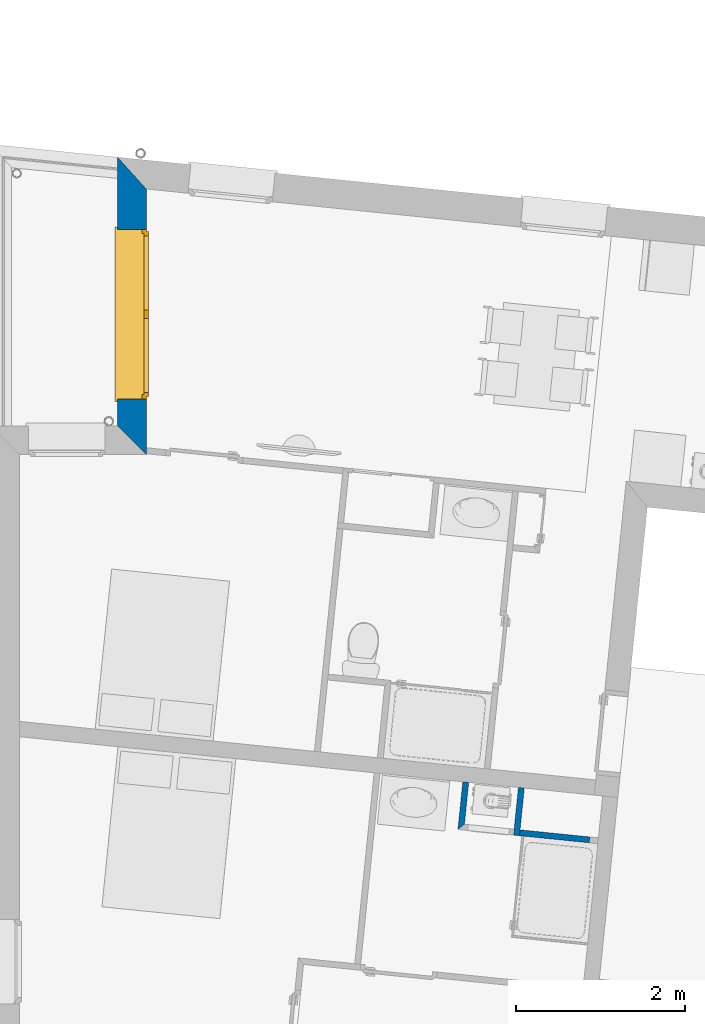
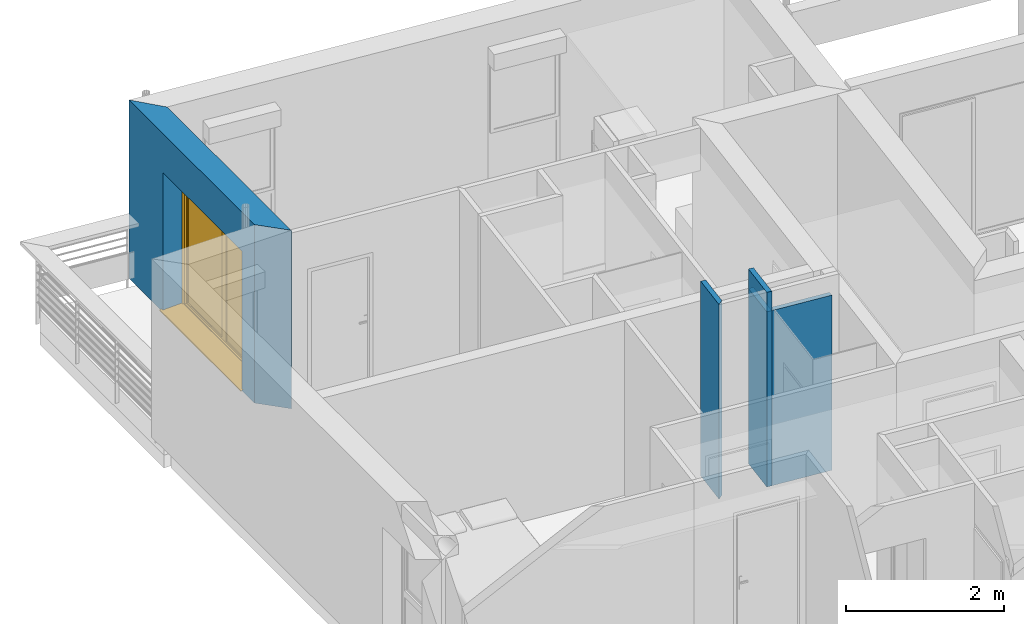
# One storey, part 69 of 171: 5 walls, 1 window, 1 opening.
"""IFC2X3 building model written with IfcOpenShell, lengths in millimetres."""

from ifc_helpers import new_model, entity, si_unit, converted_unit, derived_unit, money_unit, direction, frame, origin_with_axes, place, context, subcontext, project, spatial, polyline, outline, extrude, open_shell, faceted_brep, surface_model, source, transform, mapped, material, layer, layer_set, layer_usage, type_object, element, fill, save


model = new_model("IFC2X3")

# Units and contexts
model_context = context("Model", 3, precision=0.01, world=origin_with_axes(), true_north=direction((0.0, 1.0)))
body_context = subcontext(model_context, "Body", "Model", "MODEL_VIEW")
ifc_project = project(units=[si_unit("LENGTHUNIT", "METRE", prefix="MILLI"), si_unit("AREAUNIT", "SQUARE_METRE"), si_unit("VOLUMEUNIT", "CUBIC_METRE"), converted_unit("PLANEANGLEUNIT", "DEGREE", entity("IfcPlaneAngleMeasure", 0.0174532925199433), si_unit("PLANEANGLEUNIT", "RADIAN"), dimensions=[0, 0, 0, 0, 0, 0, 0]), money_unit("USD"), converted_unit("TIMEUNIT", "Year", entity("IfcTimeMeasure", 31557600.0), si_unit("TIMEUNIT", "SECOND"), dimensions=[0, 0, 1, 0, 0, 0, 0]), si_unit("MASSUNIT", "GRAM", prefix="KILO"), si_unit("THERMODYNAMICTEMPERATUREUNIT", "DEGREE_CELSIUS"), si_unit("LUMINOUSINTENSITYUNIT", "LUMEN"), si_unit("ENERGYUNIT", "JOULE", prefix="MEGA"), derived_unit("THERMALCONDUCTANCEUNIT", [(si_unit("POWERUNIT", "WATT"), 1), (si_unit("LENGTHUNIT", "METRE"), -1), (si_unit("THERMODYNAMICTEMPERATUREUNIT", "KELVIN"), -1)]), derived_unit("SPECIFICHEATCAPACITYUNIT", [(si_unit("ENERGYUNIT", "JOULE"), 1), (si_unit("MASSUNIT", "GRAM", prefix="KILO"), -1), (si_unit("THERMODYNAMICTEMPERATUREUNIT", "KELVIN"), -1)]), derived_unit("MASSDENSITYUNIT", [(si_unit("MASSUNIT", "GRAM", prefix="KILO"), 1), (si_unit("VOLUMEUNIT", "CUBIC_METRE"), -1)])], contexts=[model_context])

# Site, building, storey
site_placement = place(None, origin_with_axes())
site = spatial("IfcSite", under=ifc_project, at=site_placement, Name="Site", CompositionType="ELEMENT")
building_placement = place(site_placement, origin_with_axes())
building = spatial("IfcBuilding", under=site, at=building_placement, Name="Bâtiment", CompositionType="ELEMENT")
storey_placement = place(building_placement, frame((0.0, 0.0, 3000.0), z_axis=(0.0, 0.0, 1.0), x_axis=(1.0, 0.0, 0.0)))
storey = spatial("IfcBuildingStorey", under=building, at=storey_placement, Name="rdc", CompositionType="ELEMENT", Elevation=3000.0)

# Walls
ifc_material_1 = material(Name="Hachure solide 268963992")
ifc_layer_1 = layer(ifc_material_1, 70.0, ventilated="UNKNOWN")
ifc_layer_set_1 = layer_set([ifc_layer_1], Name="Cloison 70 0826278243")
ifc_layer_usage_1 = layer_usage(ifc_layer_set_1, "AXIS2", "NEGATIVE", 70.0)
wall_type_1 = type_object("IfcWallType", Name="Cloison 70 0826278243 70", PredefinedType="NOTDEFINED")
wall_1_placement = place(storey_placement, frame((2222810.364815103, -612001.0996365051, 0.0), z_axis=(0.0, 0.0, 1.0), x_axis=(0.9948666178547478, -0.1011949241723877, 0.0)))
element("IfcWallStandardCase", 1, at=wall_1_placement, inside=storey, type_object=wall_type_1, material=ifc_layer_usage_1, Name="Mur-148", context=body_context, shape_type="SweptSolid", body=[
    extrude(outline(polyline([(70.00000029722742, 0.0), (900.000000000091, 0.0), (900.000000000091, 70.00000000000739), (69.99354805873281, 70.00000000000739), (70.00000029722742, 0.0)])), origin_with_axes(), (0.0, 0.0, 1.0), 2700.0),
])
ifc_material_2 = material(Name="Hachure solide 269229667")
ifc_layer_2 = layer(ifc_material_2, 70.0, ventilated="UNKNOWN")
ifc_layer_set_2 = layer_set([ifc_layer_2], Name="Cloison 70 0836576958")
ifc_layer_usage_2 = layer_usage(ifc_layer_set_2, "AXIS2", "POSITIVE", 0.0)
wall_type_2 = type_object("IfcWallType", Name="Cloison 70 0836576958 70", PredefinedType="NOTDEFINED")
wall_2_placement = place(storey_placement, frame((2222867.647575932, -611437.425804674, 0.0), z_axis=(0.0, 0.0, 1.0), x_axis=(-0.1011032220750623, -0.9948759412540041, 0.0)))
element("IfcWallStandardCase", 2, at=wall_2_placement, inside=storey, type_object=wall_type_2, material=ifc_layer_usage_2, Name="Mur-148", context=body_context, shape_type="SweptSolid", body=[
    extrude(outline(polyline([(1.534772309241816e-09, 0.0), (566.5770056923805, 0.0), (566.577005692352, 69.99999999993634), (1.541877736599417e-09, 70.00000000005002), (1.534772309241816e-09, 0.0)])), origin_with_axes(), (0.0, 0.0, 1.0), 2700.0),
])
ifc_layer_usage_3 = layer_usage(ifc_layer_set_2, "AXIS2", "POSITIVE", 0.0)
wall_3_placement = place(storey_placement, frame((2222211.048139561, -611370.4271771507, 0.0), z_axis=(0.0, 0.0, 1.0), x_axis=(-0.1011032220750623, -0.9948759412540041, 0.0)))
element("IfcWallStandardCase", 3, at=wall_3_placement, inside=storey, type_object=wall_type_2, material=ifc_layer_usage_3, Name="Mur-148", context=body_context, shape_type="SweptSolid", body=[
    extrude(outline(polyline([(0.0, 0.0), (566.5770056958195, 0.0), (496.5928866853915, 70.00000000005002), (0.0, 70.00000000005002), (0.0, 0.0)])), origin_with_axes(), (0.0, 0.0, 1.0), 3000.0),
])
ifc_layer_usage_4 = layer_usage(ifc_layer_set_2, "AXIS2", "POSITIVE", 0.0)
wall_4_placement = place(storey_placement, frame((2222867.647575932, -611437.425804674, 0.0), z_axis=(0.0, 0.0, 1.0), x_axis=(-0.1011032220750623, -0.9948759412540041, 0.0)))
element("IfcWallStandardCase", 4, at=wall_4_placement, inside=storey, type_object=wall_type_2, material=ifc_layer_usage_4, Name="Mur-148", context=body_context, shape_type="SweptSolid", body=[
    extrude(outline(polyline([(1.534772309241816e-09, 0.0), (566.5770056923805, 0.0), (566.577005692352, 69.99999999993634), (1.541877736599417e-09, 70.00000000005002), (1.534772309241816e-09, 0.0)])), origin_with_axes(), (0.0, 0.0, 1.0), 3000.0),
])

# Wall, opening, window
ifc_material_3 = material(Name="Parpaing 312445824")
ifc_layer_3 = layer(ifc_material_3, 180.0, ventilated="UNKNOWN")
ifc_material_4 = material(Name="Isolant styromousse 301821074")
ifc_layer_4 = layer(ifc_material_4, 160.0, ventilated="UNKNOWN")
ifc_layer_set_3 = layer_set([ifc_layer_3, ifc_layer_4], Name="isol int 18+16 0018356637")
ifc_layer_usage_5 = layer_usage(ifc_layer_set_3, "AXIS2", "POSITIVE", 0.0)
wall_type_3 = type_object("IfcWallType", Name="isol int 18+16 0018356637 340", PredefinedType="NOTDEFINED")
wall_5_placement = place(storey_placement, frame((2218134.233344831, -603995.4743528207, 0.0), z_axis=(0.0, 0.0, 1.0), x_axis=(0.0, -1.0, 0.0)))
wall_5 = element("IfcWallStandardCase", 5, at=wall_5_placement, inside=storey, type_object=wall_type_3, material=ifc_layer_usage_5, Name="Mur-143", context=body_context, shape_type="SweptSolid", body=[
    extrude(outline(polyline([(0.0, 0.0), (3171.913547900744, 0.0), (3511.913547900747, 340.0000000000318), (376.3032956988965, 340.0000000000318), (0.0, 0.0)])), origin_with_axes(), (0.0, 0.0, 1.0), 2750.0),
])
opening_placement = place(wall_5_placement, frame((1854.033429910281, 0.0, 0.0), z_axis=(0.0, 0.0, 1.0), x_axis=(1.0, 0.0, 0.0)))
opening = element("IfcOpeningElement", 6, at=opening_placement, cuts=wall_5, Name="Fen-207", context=body_context, shape_type="Brep", body=[
    faceted_brep([(-1000.0, 290.0000000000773, 2150.0), (-1000.0, 341.0000000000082, 2150.0), (-1000.0, 341.0000000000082, 0.0), (-1000.0, 290.0000000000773, 0.0), (-1000.0, 280.0000000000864, 2150.0), (-1000.0, 280.0000000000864, 2400.0), (-1000.0, 530.0000000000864, 2400.0), (-1000.0, 530.0000000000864, 2150.0), (1000.0, 341.0000000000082, 2150.0), (1000.0, 341.0000000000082, 0.0), (1000.0, 290.0000000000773, 0.0), (1000.0, -0.9999999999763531, 0.0), (-1000.0, -0.9999999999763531, 0.0), (-1000.0, -0.9999999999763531, 2150.0), (1000.0, 280.0000000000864, 2150.0), (1000.0, 280.0000000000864, 2400.0), (1000.0, 530.0000000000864, 2400.0), (1000.0, 530.0000000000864, 2150.0), (1000.0, 290.0000000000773, 2150.0), (1000.0, -0.9999999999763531, 2150.0)], [[[0, 1, 2, 3]], [[1, 0, 4, 5, 6, 7]], [[1, 8, 9, 2]], [[10, 11, 12, 3, 2, 9]], [[4, 0, 3, 12, 13]], [[4, 14, 15, 5]], [[6, 5, 15, 16]], [[7, 6, 16, 17]], [[8, 1, 7, 17]], [[8, 18, 10, 9]], [[18, 14, 19, 11, 10]], [[13, 12, 11, 19]], [[14, 4, 13, 19]], [[18, 8, 17, 16, 15, 14]]]),
])
window_style = type_object("IfcWindowStyle", Name="Fenêtre châssis double variable 27", ConstructionType="NOTDEFINED", OperationType="DOUBLE_PANEL_VERTICAL", ParameterTakesPrecedence=False, Sizeable=False)
shared_shape = source(origin_with_axes(), body_context, "Body", "SurfaceModel", [
    surface_model("IfcShellBasedSurfaceModel", [(-1000.0, -51.00000000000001, 40.00000000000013), (1000.0, -51.00000000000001, 40.0), (1000.0, -51.00000000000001, 50.0), (-1000.0, -51.00000000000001, 50.00000000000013), (-1030.0, -369.9999999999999, 28.96551724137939), (1030.0, -369.9999999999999, 28.96551724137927), (1030.0, -339.9999999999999, 30.00324289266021), (1000.0, -339.9999999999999, 30.00324289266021), (-1000.0, -339.9999999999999, 30.00324289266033), (-1030.0, -339.9999999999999, 30.00324289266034), (-1030.0, -369.9999999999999, 8.965517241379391), (1030.0, -369.9999999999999, 8.965517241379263), (-1030.0, -359.9999999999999, 18.96551724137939), (1030.0, -359.9999999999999, 18.96551724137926)], [open_shell([[[0, 1, 2, 3]], [[4, 5, 6, 7, 1, 0, 8, 9]], [[10, 11, 5, 4]], [[12, 13, 11, 10]]])]),
    faceted_brep([(1000.0, -60.00000000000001, 2400.0), (1000.0, 190.0, 2400.0), (997.0, 190.0, 2400.0), (997.0, -60.00000000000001, 2400.0), (1000.0, -60.00000000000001, 2150.0), (1000.0, 190.0, 2150.0), (997.0, 190.0, 2150.0), (997.0, -60.00000000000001, 2150.0)], [[[0, 1, 2, 3]], [[0, 4, 5, 1]], [[1, 5, 6, 2]], [[3, 2, 6, 7]], [[4, 0, 3, 7]], [[5, 4, 7, 6]]]),
    faceted_brep([(-997.0000000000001, -59.99999999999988, 2400.0), (-997.0000000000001, 190.0000000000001, 2400.0), (-1000.0, 190.0000000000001, 2400.0), (-1000.0, -59.99999999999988, 2400.0), (-997.0000000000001, -59.99999999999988, 2150.0), (-997.0000000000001, 190.0000000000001, 2150.0), (-1000.0, 190.0000000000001, 2150.0), (-1000.0, -59.99999999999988, 2150.0)], [[[0, 1, 2, 3]], [[0, 4, 5, 1]], [[1, 5, 6, 2]], [[3, 2, 6, 7]], [[4, 0, 3, 7]], [[5, 4, 7, 6]]]),
    faceted_brep([(997.0, -60.0, 2150.0), (997.0, -60.0, 2400.0), (-997.0, -59.99999999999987, 2400.0), (-997.0, -59.99999999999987, 2150.0), (997.0, -56.99999999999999, 2150.0), (997.0, -56.99999999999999, 2397.0), (997.0, 187.0, 2397.0), (997.0, 187.0, 2153.0), (997.0, -37.99999999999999, 2153.0), (997.0, -37.99999999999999, 2150.0), (997.0, 190.0, 2150.0), (997.0, 190.0, 2400.0), (-997.0, 190.0000000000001, 2400.0), (-997.0, 190.0000000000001, 2150.0), (-997.0, -37.99999999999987, 2150.0), (-997.0, -37.99999999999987, 2153.0), (-997.0, 187.0000000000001, 2153.0), (-997.0, 187.0000000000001, 2397.0), (-997.0, -56.99999999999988, 2397.0), (-997.0, -56.99999999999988, 2150.0)], [[[0, 1, 2, 3]], [[0, 4, 5, 6, 7, 8, 9, 10, 11, 1]], [[1, 11, 12, 2]], [[3, 2, 12, 13, 14, 15, 16, 17, 18, 19]], [[4, 0, 3, 19]], [[5, 4, 19, 18]], [[6, 5, 18, 17]], [[7, 6, 17, 16]], [[8, 7, 16, 15]], [[9, 8, 15, 14]], [[10, 9, 14, 13]], [[11, 10, 13, 12]]]),
    faceted_brep([(994.0, -40.37442957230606, 2256.419644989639), (994.0, -35.54711042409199, 2238.403844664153), (994.0, -27.66471820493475, 2221.5), (994.0, -16.9667554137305, 2206.22172576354), (994.0, -3.778274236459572, 2193.033244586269), (994.0, 11.50000000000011, 2182.335281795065), (994.0, 28.40384466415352, 2174.452889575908), (994.0, 46.4196449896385, 2169.625570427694), (994.0, 65.00000000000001, 2168.0), (994.0, 83.58035501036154, 2169.625570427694), (994.0, 101.5961553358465, 2174.452889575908), (994.0, 118.4999999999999, 2182.335281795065), (994.0, 133.7782742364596, 2193.033244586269), (994.0, 146.9667554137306, 2206.22172576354), (994.0, 157.6647182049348, 2221.5), (994.0, 165.5471104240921, 2238.403844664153), (994.0, 170.3744295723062, 2256.419644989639), (994.0, 171.9999999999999, 2275.0), (994.0, 170.3744295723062, 2293.580355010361), (994.0, 165.5471104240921, 2311.596155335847), (994.0, 157.6647182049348, 2328.5), (994.0, 146.9667554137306, 2343.77827423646), (994.0, 133.7782742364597, 2356.96675541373), (994.0, 118.5, 2367.664718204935), (994.0, 101.5961553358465, 2375.547110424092), (994.0, 83.58035501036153, 2380.374429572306), (994.0, 64.99999999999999, 2382.0), (994.0, 46.41964498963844, 2380.374429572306), (994.0, 28.40384466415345, 2375.547110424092), (994.0, 11.5, 2367.664718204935), (994.0, -3.778274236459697, 2356.96675541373), (994.0, -16.96675541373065, 2343.77827423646), (994.0, -27.66471820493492, 2328.5), (994.0, -35.54711042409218, 2311.596155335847), (994.0, -40.37442957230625, 2293.580355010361), (994.0, -41.99999999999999, 2275.0), (-994.0, -40.37442957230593, 2256.419644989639), (-994.0, -35.54711042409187, 2238.403844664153), (-994.0, -27.66471820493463, 2221.5), (-994.0, -16.96675541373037, 2206.22172576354), (-994.0, -3.778274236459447, 2193.033244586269), (-994.0, 11.50000000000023, 2182.335281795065), (-994.0, 28.40384466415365, 2174.452889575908), (-994.0, 46.41964498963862, 2169.625570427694), (-994.0, 65.00000000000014, 2168.0), (-994.0, 83.58035501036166, 2169.625570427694), (-994.0, 101.5961553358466, 2174.452889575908), (-994.0, 118.5000000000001, 2182.335281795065), (-994.0, 133.7782742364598, 2193.033244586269), (-994.0, 146.9667554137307, 2206.22172576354), (-994.0, 157.6647182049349, 2221.5), (-994.0, 165.5471104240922, 2238.403844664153), (-994.0, 170.3744295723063, 2256.419644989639), (-994.0, 172.0, 2275.0), (-994.0, 170.3744295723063, 2293.580355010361), (-994.0, 165.5471104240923, 2311.596155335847), (-994.0, 157.664718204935, 2328.5), (-994.0, 146.9667554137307, 2343.77827423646), (-994.0, 133.7782742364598, 2356.96675541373), (-994.0, 118.5000000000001, 2367.664718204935), (-994.0, 101.5961553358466, 2375.547110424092), (-994.0, 83.58035501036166, 2380.374429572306), (-994.0, 65.00000000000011, 2382.0), (-994.0, 46.41964498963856, 2380.374429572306), (-994.0, 28.40384466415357, 2375.547110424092), (-994.0, 11.50000000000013, 2367.664718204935), (-994.0, -3.778274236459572, 2356.96675541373), (-994.0, -16.96675541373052, 2343.77827423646), (-994.0, -27.6647182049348, 2328.5), (-994.0, -35.54711042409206, 2311.596155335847), (-994.0, -40.37442957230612, 2293.580355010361), (-994.0, -41.99999999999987, 2275.0)], [[[0, 1, 2, 3, 4, 5, 6, 7, 8, 9, 10, 11, 12, 13, 14, 15, 16, 17, 18, 19, 20, 21, 22, 23, 24, 25, 26, 27, 28, 29, 30, 31, 32, 33, 34, 35]], [[1, 0, 36, 37]], [[2, 1, 37, 38]], [[3, 2, 38, 39]], [[4, 3, 39, 40]], [[5, 4, 40, 41]], [[6, 5, 41, 42]], [[7, 6, 42, 43]], [[8, 7, 43, 44]], [[9, 8, 44, 45]], [[10, 9, 45, 46]], [[11, 10, 46, 47]], [[12, 11, 47, 48]], [[13, 12, 48, 49]], [[14, 13, 49, 50]], [[15, 14, 50, 51]], [[16, 15, 51, 52]], [[17, 16, 52, 53]], [[18, 17, 53, 54]], [[19, 18, 54, 55]], [[20, 19, 55, 56]], [[21, 20, 56, 57]], [[22, 21, 57, 58]], [[23, 22, 58, 59]], [[24, 23, 59, 60]], [[25, 24, 60, 61]], [[26, 25, 61, 62]], [[27, 26, 62, 63]], [[28, 27, 63, 64]], [[29, 28, 64, 65]], [[30, 29, 65, 66]], [[31, 30, 66, 67]], [[32, 31, 67, 68]], [[33, 32, 68, 69]], [[34, 33, 69, 70]], [[35, 34, 70, 71]], [[0, 35, 71, 36]], [[36, 71, 70, 69, 68, 67, 66, 65, 64, 63, 62, 61, 60, 59, 58, 57, 56, 55, 54, 53, 52, 51, 50, 49, 48, 47, 46, 45, 44, 43, 42, 41, 40, 39, 38, 37]]]),
    faceted_brep([(-1000.0, -34.99999999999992, 30.0), (-1000.0, -59.99999999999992, 30.0), (-1000.0, -59.99999999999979, 2150.0), (-1000.0, -34.99999999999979, 2150.0), (-975.0, -34.99999999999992, 30.0), (-975.0, -37.99999999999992, 30.0), (-997.0, -37.99999999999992, 30.0), (-997.0, -56.99999999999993, 30.0), (-975.0, -56.99999999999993, 30.0), (-975.0, -59.99999999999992, 30.0), (-975.0, -59.99999999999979, 2150.0), (-975.0, -56.99999999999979, 2150.0), (-997.0, -56.99999999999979, 2150.0), (-997.0, -37.99999999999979, 2150.0), (-975.0, -37.99999999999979, 2150.0), (-975.0, -34.99999999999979, 2150.0)], [[[0, 1, 2, 3]], [[0, 4, 5, 6, 7, 8, 9, 1]], [[1, 9, 10, 2]], [[3, 2, 10, 11, 12, 13, 14, 15]], [[4, 0, 3, 15]], [[5, 4, 15, 14]], [[6, 5, 14, 13]], [[7, 6, 13, 12]], [[8, 7, 12, 11]], [[9, 8, 11, 10]]]),
    faceted_brep([(1000.0, -34.99999999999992, 30.0), (1000.0, -34.99999999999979, 2150.0), (1000.0, -59.99999999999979, 2150.0), (1000.0, -59.99999999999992, 30.0), (975.0, -34.99999999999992, 30.0), (975.0, -34.99999999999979, 2150.0), (975.0, -37.99999999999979, 2150.0), (997.0, -37.99999999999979, 2150.0), (997.0, -56.99999999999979, 2150.0), (975.0, -56.99999999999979, 2150.0), (975.0, -59.99999999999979, 2150.0), (975.0, -59.99999999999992, 30.0), (975.0, -56.99999999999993, 30.0), (997.0, -56.99999999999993, 30.0), (997.0, -37.99999999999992, 30.0), (975.0, -37.99999999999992, 30.0)], [[[0, 1, 2, 3]], [[4, 5, 1, 0]], [[1, 5, 6, 7, 8, 9, 10, 2]], [[3, 2, 10, 11]], [[0, 3, 11, 12, 13, 14, 15, 4]], [[15, 6, 5, 4]], [[14, 7, 6, 15]], [[13, 8, 7, 14]], [[12, 9, 8, 13]], [[11, 10, 9, 12]]]),
    faceted_brep([(-997.0, -46.66666666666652, 2275.0), (997.0, -46.66666666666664, 2275.0), (997.0, -46.66666666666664, 2266.666666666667), (-997.0, -46.66666666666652, 2266.666666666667), (-997.0, -51.66666666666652, 2275.0), (997.0, -51.66666666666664, 2275.0), (997.0, -51.66666666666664, 2266.666666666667), (997.0, -49.99999999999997, 2250.0), (997.0, -44.99999999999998, 2250.0), (-997.0, -44.99999999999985, 2250.0), (-997.0, -49.99999999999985, 2250.0), (-997.0, -51.66666666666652, 2266.666666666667)], [[[0, 1, 2, 3]], [[1, 0, 4, 5]], [[1, 5, 6, 7, 8, 2]], [[2, 8, 9, 3]], [[4, 0, 3, 9, 10, 11]], [[6, 5, 4, 11]], [[7, 6, 11, 10]], [[8, 7, 10, 9]]]),
    faceted_brep([(997.0, -44.99999999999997, 2250.0), (997.0, -46.66666666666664, 2233.333333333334), (-997.0, -46.66666666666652, 2233.333333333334), (-997.0, -44.99999999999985, 2250.0), (997.0, -49.99999999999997, 2250.0), (997.0, -51.66666666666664, 2233.333333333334), (997.0, -51.66666666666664, 2216.666666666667), (997.0, -49.99999999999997, 2200.0), (997.0, -44.99999999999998, 2200.0), (997.0, -46.66666666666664, 2216.666666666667), (-997.0, -46.66666666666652, 2216.666666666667), (-997.0, -44.99999999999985, 2200.0), (-997.0, -49.99999999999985, 2200.0), (-997.0, -51.66666666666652, 2216.666666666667), (-997.0, -51.66666666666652, 2233.333333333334), (-997.0, -49.99999999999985, 2250.0)], [[[0, 1, 2, 3]], [[0, 4, 5, 6, 7, 8, 9, 1]], [[1, 9, 10, 2]], [[3, 2, 10, 11, 12, 13, 14, 15]], [[4, 0, 3, 15]], [[5, 4, 15, 14]], [[6, 5, 14, 13]], [[7, 6, 13, 12]], [[8, 7, 12, 11]], [[9, 8, 11, 10]]]),
    faceted_brep([(997.0, -44.99999999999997, 2200.0), (997.0, -46.66666666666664, 2183.333333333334), (-997.0, -46.66666666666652, 2183.333333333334), (-997.0, -44.99999999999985, 2200.0), (997.0, -49.99999999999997, 2200.0), (997.0, -51.66666666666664, 2183.333333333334), (997.0, -51.66666666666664, 2166.666666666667), (997.0, -49.99999999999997, 2150.000000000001), (997.0, -44.99999999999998, 2150.000000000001), (997.0, -46.66666666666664, 2166.666666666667), (-997.0, -46.66666666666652, 2166.666666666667), (-997.0, -44.99999999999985, 2150.000000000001), (-997.0, -49.99999999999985, 2150.000000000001), (-997.0, -51.66666666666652, 2166.666666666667), (-997.0, -51.66666666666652, 2183.333333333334), (-997.0, -49.99999999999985, 2200.0)], [[[0, 1, 2, 3]], [[0, 4, 5, 6, 7, 8, 9, 1]], [[1, 9, 10, 2]], [[3, 2, 10, 11, 12, 13, 14, 15]], [[4, 0, 3, 15]], [[5, 4, 15, 14]], [[6, 5, 14, 13]], [[7, 6, 13, 12]], [[8, 7, 12, 11]], [[9, 8, 11, 10]]]),
    faceted_brep([(975.0, 0.0, 2100.0), (975.0, -25.00000000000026, 2100.0), (950.0, -25.00000000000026, 2100.0), (950.0, -50.00000000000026, 2100.0), (1000.0, -50.00000000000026, 2100.0), (1000.0, 0.0, 2100.0), (975.0, 0.0, 50.00000000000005), (975.0, -25.00000000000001, 50.00000000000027), (950.0, -25.00000000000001, 50.00000000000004), (950.0, -50.00000000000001, 50.00000000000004), (1000.0, -50.00000000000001, 50.00000000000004), (1000.0, 0.0, 50.00000000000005)], [[[0, 1, 2, 3, 4, 5]], [[1, 0, 6, 7]], [[8, 2, 1, 7]], [[2, 8, 9, 3]], [[4, 3, 9, 10]], [[5, 4, 10, 11]], [[6, 0, 5, 11]], [[7, 6, 11, 10, 9, 8]]]),
    faceted_brep([(-950.0, -25.00000000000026, 2100.0), (-975.0, -25.00000000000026, 2100.0), (-975.0, 0.0, 2100.0), (-1000.0, 0.0, 2100.0), (-1000.0, -50.00000000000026, 2100.0), (-950.0, -50.00000000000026, 2100.0), (-950.0, -25.00000000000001, 50.00000000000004), (-975.0, -25.00000000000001, 50.00000000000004), (-975.0, 0.0, 50.00000000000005), (-1000.0, 0.0, 50.00000000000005), (-1000.0, -50.00000000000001, 50.00000000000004), (-950.0, -50.00000000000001, 50.00000000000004)], [[[0, 1, 2, 3, 4, 5]], [[1, 0, 6, 7]], [[8, 2, 1, 7]], [[2, 8, 9, 3]], [[9, 10, 4, 3]], [[10, 11, 5, 4]], [[6, 0, 5, 11]], [[7, 6, 11, 10, 9, 8]]]),
    faceted_brep([(-950.0, -25.00000000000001, 50.00000000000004), (-975.0, -25.00000000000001, 50.00000000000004), (-975.0, 0.0, 50.00000000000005), (-1000.0, 0.0, 50.00000000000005), (-1000.0, -50.00000000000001, 50.00000000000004), (-950.0, -50.00000000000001, 50.00000000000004), (950.0, -25.00000000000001, 50.00000000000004), (975.0, -25.00000000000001, 50.00000000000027), (975.0, -25.0, 24.99999999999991), (-975.0, -25.0, 24.99999999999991), (-975.0, 0.0, 24.99999999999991), (975.0, 0.0, 24.99999999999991), (975.0, 0.0, 50.00000000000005), (1000.0, 0.0, 50.00000000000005), (1000.0, 0.0, 0.0), (-1000.0, 0.0, 0.0), (-1000.0, -50.0, 0.0), (1000.0, -50.00000000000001, 50.00000000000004), (950.0, -50.00000000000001, 50.00000000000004), (1000.0, -50.0, 0.0)], [[[0, 1, 2, 3, 4, 5]], [[1, 0, 6, 7, 8, 9]], [[10, 2, 1, 9]], [[11, 12, 13, 14, 15, 3, 2, 10]], [[15, 16, 4, 3]], [[17, 18, 5, 4, 16, 19]], [[6, 0, 5, 18]], [[7, 6, 18, 17, 13, 12]], [[7, 12, 11, 8]], [[11, 10, 9, 8]], [[13, 17, 19, 14]], [[14, 19, 16, 15]]]),
    faceted_brep([(975.0, 0.0, 2100.0), (975.0, 0.0, 2125.0), (-975.0, 0.0, 2125.0), (-975.0, 0.0, 2100.0), (-1000.0, 0.0, 2100.0), (-1000.0, 0.0, 2150.0), (1000.0, 0.0, 2150.0), (1000.0, 0.0, 2100.0), (975.0, -25.00000000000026, 2100.0), (975.0, -25.00000000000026, 2125.0), (-975.0, -25.00000000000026, 2125.0), (-975.0, -25.00000000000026, 2100.0), (-950.0, -25.00000000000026, 2100.0), (-950.0, -50.00000000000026, 2100.0), (-1000.0, -50.00000000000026, 2100.0), (-1000.0, -50.00000000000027, 2150.0), (1000.0, -50.00000000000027, 2150.0), (1000.0, -50.00000000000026, 2100.0), (950.0, -50.00000000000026, 2100.0), (950.0, -25.00000000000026, 2100.0)], [[[0, 1, 2, 3, 4, 5, 6, 7]], [[1, 0, 8, 9]], [[2, 1, 9, 10]], [[3, 2, 10, 11]], [[11, 12, 13, 14, 4, 3]], [[4, 14, 15, 5]], [[5, 15, 16, 6]], [[6, 16, 17, 7]], [[8, 0, 7, 17, 18, 19]], [[12, 11, 10, 9, 8, 19]], [[12, 19, 18, 13]], [[14, 13, 18, 17, 16, 15]]]),
    faceted_brep([(925.0, -25.00000000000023, 2075.0), (975.0, -25.00000000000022, 2075.0), (975.0, 24.99999999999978, 2075.0), (925.0, 24.99999999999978, 2075.0), (925.0, -24.99999999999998, 75.00000000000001), (975.0, -24.99999999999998, 75.00000000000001), (975.0, 25.00000000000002, 75.00000000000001), (925.0, 25.00000000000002, 75.00000000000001)], [[[0, 1, 2, 3]], [[0, 4, 5, 1]], [[1, 5, 6, 2]], [[3, 2, 6, 7]], [[4, 0, 3, 7]], [[5, 4, 7, 6]]]),
    faceted_brep([(49.99999999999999, -25.00000000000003, 75.00000000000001), (0.0, -25.00000000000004, 75.00000000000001), (0.0, 24.99999999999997, 75.00000000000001), (49.99999999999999, 24.99999999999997, 75.00000000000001), (49.99999999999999, -25.00000000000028, 2075.0), (0.0, -25.00000000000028, 2075.0), (0.0, 24.99999999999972, 2075.0), (49.99999999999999, 24.99999999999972, 2075.0)], [[[0, 1, 2, 3]], [[0, 4, 5, 1]], [[1, 5, 6, 2]], [[3, 2, 6, 7]], [[4, 0, 3, 7]], [[5, 4, 7, 6]]]),
    faceted_brep([(0.0, -25.00000000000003, 25.0), (0.0, -25.00000000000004, 75.00000000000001), (0.0, 24.99999999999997, 75.00000000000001), (0.0, 24.99999999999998, 25.00000000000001), (975.0, -24.99999999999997, 25.0), (975.0, -24.99999999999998, 75.00000000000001), (925.0, -24.99999999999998, 75.00000000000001), (49.99999999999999, -25.00000000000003, 75.00000000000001), (49.99999999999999, 24.99999999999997, 75.00000000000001), (925.0, 25.00000000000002, 75.00000000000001), (975.0, 25.00000000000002, 75.00000000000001), (975.0, 25.00000000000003, 25.00000000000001)], [[[0, 1, 2, 3]], [[0, 4, 5, 6, 7, 1]], [[1, 7, 8, 2]], [[3, 2, 8, 9, 10, 11]], [[4, 0, 3, 11]], [[5, 4, 11, 10]], [[6, 5, 10, 9]], [[7, 6, 9, 8]]]),
    faceted_brep([(975.0, -25.00000000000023, 2125.0), (975.0, -25.00000000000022, 2075.0), (975.0, 24.99999999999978, 2075.0), (975.0, 24.99999999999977, 2125.0), (0.0, -25.00000000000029, 2125.0), (0.0, -25.00000000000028, 2075.0), (49.99999999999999, -25.00000000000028, 2075.0), (925.0, -25.00000000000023, 2075.0), (925.0, 24.99999999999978, 2075.0), (49.99999999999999, 24.99999999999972, 2075.0), (0.0, 24.99999999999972, 2075.0), (0.0, 24.99999999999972, 2125.0)], [[[0, 1, 2, 3]], [[0, 4, 5, 6, 7, 1]], [[1, 7, 8, 2]], [[3, 2, 8, 9, 10, 11]], [[4, 0, 3, 11]], [[5, 4, 11, 10]], [[6, 5, 10, 9]], [[7, 6, 9, 8]]]),
    surface_model("IfcShellBasedSurfaceModel", [(925.0, -10.00000000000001, 75.00000000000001), (925.0, -10.00000000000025, 2075.0), (49.99999999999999, -10.00000000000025, 2075.0), (49.99999999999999, -10.00000000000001, 75.00000000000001)], [open_shell([[[0, 1, 2, 3]]])]),
    surface_model("IfcShellBasedSurfaceModel", [(925.0, 9.999999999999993, 75.00000000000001), (49.99999999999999, 9.999999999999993, 75.00000000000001), (49.99999999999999, 9.99999999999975, 2075.0), (925.0, 9.99999999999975, 2075.0)], [open_shell([[[0, 1, 2, 3]]])]),
    faceted_brep([(-49.99999999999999, -25.00000000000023, 2075.0), (0.0, -25.00000000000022, 2075.0), (0.0, 24.99999999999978, 2075.0), (-49.99999999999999, 24.99999999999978, 2075.0), (-49.99999999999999, -24.99999999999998, 75.00000000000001), (0.0, -24.99999999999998, 75.00000000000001), (0.0, 25.00000000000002, 75.00000000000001), (-49.99999999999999, 25.00000000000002, 75.00000000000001)], [[[0, 1, 2, 3]], [[0, 4, 5, 1]], [[1, 5, 6, 2]], [[3, 2, 6, 7]], [[4, 0, 3, 7]], [[5, 4, 7, 6]]]),
    faceted_brep([(-925.0, -25.00000000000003, 75.00000000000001), (-975.0, -25.00000000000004, 75.00000000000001), (-975.0, 24.99999999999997, 75.00000000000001), (-925.0, 24.99999999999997, 75.00000000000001), (-925.0, -25.00000000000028, 2075.0), (-975.0, -25.00000000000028, 2075.0), (-975.0, 24.99999999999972, 2075.0), (-925.0, 24.99999999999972, 2075.0)], [[[0, 1, 2, 3]], [[0, 4, 5, 1]], [[1, 5, 6, 2]], [[3, 2, 6, 7]], [[4, 0, 3, 7]], [[5, 4, 7, 6]]]),
    faceted_brep([(-975.0, -25.00000000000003, 25.0), (-975.0, -25.00000000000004, 75.00000000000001), (-975.0, 24.99999999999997, 75.00000000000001), (-975.0, 24.99999999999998, 25.00000000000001), (0.0, -24.99999999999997, 25.0), (0.0, -24.99999999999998, 75.00000000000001), (-49.99999999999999, -24.99999999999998, 75.00000000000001), (-925.0, -25.00000000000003, 75.00000000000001), (-925.0, 24.99999999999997, 75.00000000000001), (-49.99999999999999, 25.00000000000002, 75.00000000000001), (0.0, 25.00000000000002, 75.00000000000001), (0.0, 25.00000000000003, 25.00000000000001)], [[[0, 1, 2, 3]], [[0, 4, 5, 6, 7, 1]], [[1, 7, 8, 2]], [[3, 2, 8, 9, 10, 11]], [[4, 0, 3, 11]], [[5, 4, 11, 10]], [[6, 5, 10, 9]], [[7, 6, 9, 8]]]),
    faceted_brep([(0.0, -25.00000000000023, 2125.0), (0.0, -25.00000000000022, 2075.0), (0.0, 24.99999999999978, 2075.0), (0.0, 24.99999999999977, 2125.0), (-975.0, -25.00000000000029, 2125.0), (-975.0, -25.00000000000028, 2075.0), (-925.0, -25.00000000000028, 2075.0), (-49.99999999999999, -25.00000000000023, 2075.0), (-49.99999999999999, 24.99999999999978, 2075.0), (-925.0, 24.99999999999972, 2075.0), (-975.0, 24.99999999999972, 2075.0), (-975.0, 24.99999999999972, 2125.0)], [[[0, 1, 2, 3]], [[0, 4, 5, 6, 7, 1]], [[1, 7, 8, 2]], [[3, 2, 8, 9, 10, 11]], [[4, 0, 3, 11]], [[5, 4, 11, 10]], [[6, 5, 10, 9]], [[7, 6, 9, 8]]]),
    surface_model("IfcShellBasedSurfaceModel", [(-49.99999999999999, -10.00000000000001, 75.00000000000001), (-49.99999999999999, -10.00000000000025, 2075.0), (-925.0, -10.00000000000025, 2075.0), (-925.0, -10.00000000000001, 75.00000000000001)], [open_shell([[[0, 1, 2, 3]]])]),
    surface_model("IfcShellBasedSurfaceModel", [(-49.99999999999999, 9.999999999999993, 75.00000000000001), (-925.0, 9.999999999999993, 75.00000000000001), (-925.0, 9.99999999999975, 2075.0), (-49.99999999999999, 9.99999999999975, 2075.0)], [open_shell([[[0, 1, 2, 3]]])]),
])
window_placement = place(opening_placement, frame((-999.9999999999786, 0.0, 0.0), z_axis=(0.0, 0.0, 1.0), x_axis=(1.0, 0.0, 0.0)))
window = element("IfcWindow", 7, at=window_placement, inside=storey, type_object=window_style, Name="Fen-207", OverallHeight=2150.0, OverallWidth=2000.0, context=body_context, shape_type="MappedRepresentation", body=[
    mapped(shared_shape, transform((1000.0, 340.0000000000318, 0.0))),
])
fill(opening, window)

save(model, "model.ifc")
